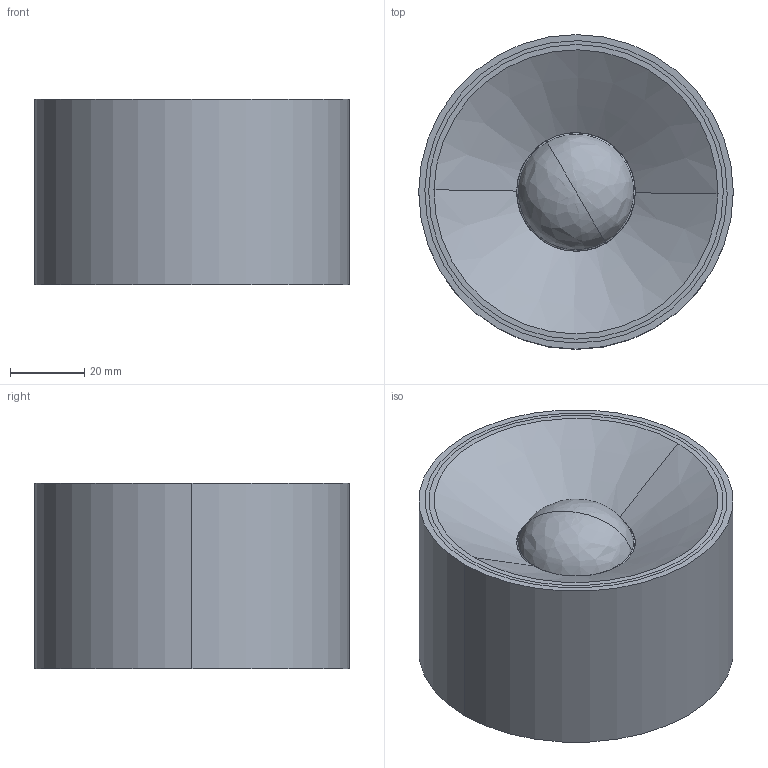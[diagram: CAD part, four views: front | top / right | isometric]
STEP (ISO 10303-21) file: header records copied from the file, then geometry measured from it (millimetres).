
FILE_DESCRIPTION((''),'2;1');
FILE_NAME('PR158_KALEO_ASM','2026-02-24T11:45:41',('Bonardi'),(''),'CREO PARAMETRIC BY PTC INC, 2025010','CREO PARAMETRIC BY PTC INC, 2025010','');
FILE_SCHEMA(('CONFIG_CONTROL_DESIGN'));
Length unit declared in the file: millimetre
Products named in the file (4): CMDF800G; ACLF400W; RIF4000X; PR158_KALEO_ASM
Assembly tree (3 placements, depth 2):
  PR158_KALEO_ASM
    CMDF800G
    ACLF400W
    RIF4000X
Bounding box: 85 x 85 x 50 mm (x, y, z)
Volume: 84559.7 mm3; surface area: 59530.7 mm2
Topology: 3 solids, 8 shells, 599 faces, 1601 edges, 1019 vertices
Faces by surface type: bspline 380, torus 92, plane 50, cylinder 46, cone 30, sphere 1
Entity records: 24468 total; most frequent: CARTESIAN_POINT 11965, ORIENTED_EDGE 3178, DIRECTION 1899, EDGE_CURVE 1599, VERTEX_POINT 1019, AXIS2_PLACEMENT_3D 870, B_SPLINE_CURVE_WITH_KNOTS 798, CIRCLE 642
